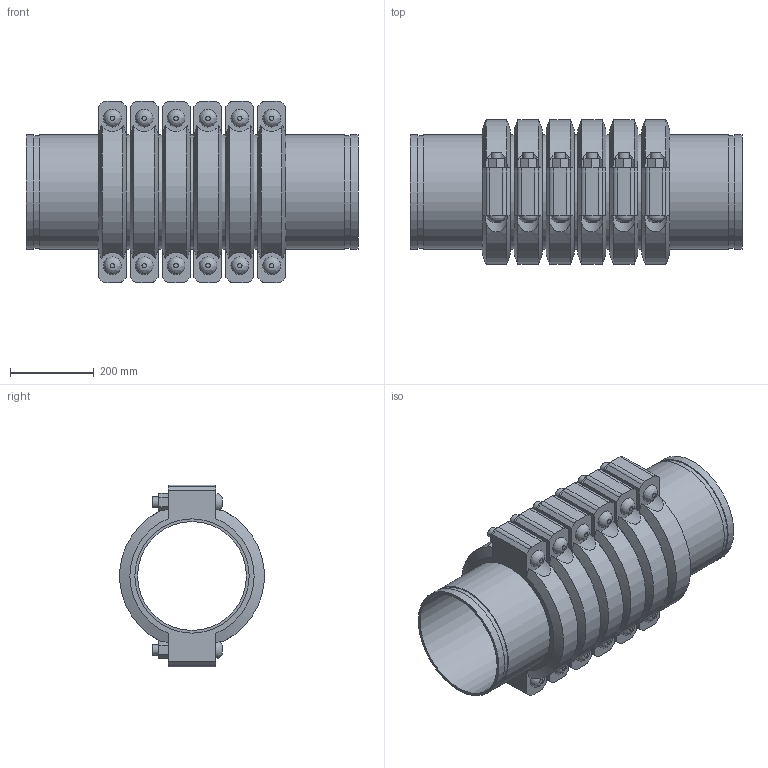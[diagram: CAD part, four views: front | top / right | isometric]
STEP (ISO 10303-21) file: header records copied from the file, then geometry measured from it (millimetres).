
FILE_DESCRIPTION(/* description */ ('VIC EXPANSION JOINT 6 COUPLINGS EXPANDED STYLE 155 (OGS)','CAx-IF Rec.Pracs.---Representation and Presentation of Product Manufacturing Information (PMI)---4.0---2014-10-13'),/* implementation_level */ '2;1');
FILE_NAME(/* name */ 'C:\Users\kkamble\AppData\Roaming\Autodesk\ApplicationPlugins\Victaulic.Temp\A6\Victaulic_IPS_Expansion Joint_Expanded_6 Couplings_Style 155 (OGS)_10 (250).stp',/* time_stamp */ '2021-06-27T00:05:17+02:00',/* author */ ('kkamble'),/* organization */ ('Victaulic'),/* preprocessor_version */ 'ST-DEVELOPER v17.2',/* originating_system */ 'Autodesk Inventor 2019',/* authorisation */ '');
FILE_SCHEMA (('AP242_MANAGED_MODEL_BASED_3D_ENGINEERING_MIM_LF { 1 0 10303 442 1 1 4 }'));
Length unit declared in the file: inch
Products named in the file (4): 155-10.0; Nipple-10.0; Nipple-10.0_1; 077-10.0
Assembly tree (13 placements, depth 2):
  155-10.0
    Nipple-10.0  x2
    Nipple-10.0_1  x5
    077-10.0  x6
Bounding box: 793.75 x 344.9 x 435.1 mm (x, y, z)
Volume: 21362032.1 mm3; surface area: 3106799.5 mm2
Topology: 13 solids, 25 shells, 450 faces, 1080 edges, 756 vertices
Faces by surface type: plane 258, cylinder 156, cone 24, bspline 12
Full cylindrical faces by diameter (mm): 25.4 x24, 27.432 x12, 260.35 x7, 264.16 x6, 268.275 x14, 273.05 x33
Entity records: 3089 total; most frequent: CARTESIAN_POINT 677, DIRECTION 481, ORIENTED_EDGE 410, EDGE_CURVE 205, AXIS2_PLACEMENT_3D 196, VERTEX_POINT 146, EDGE_LOOP 111, CIRCLE 96
